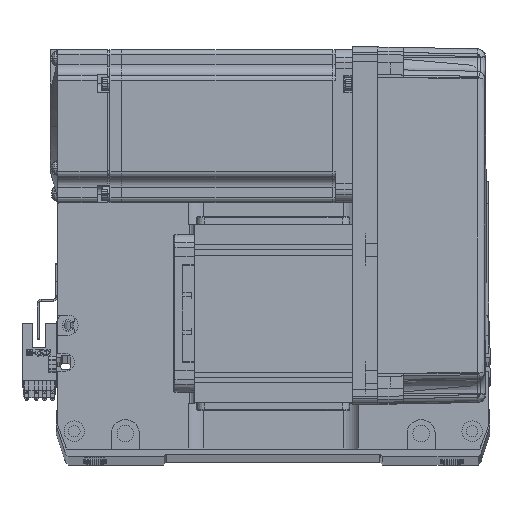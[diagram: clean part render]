
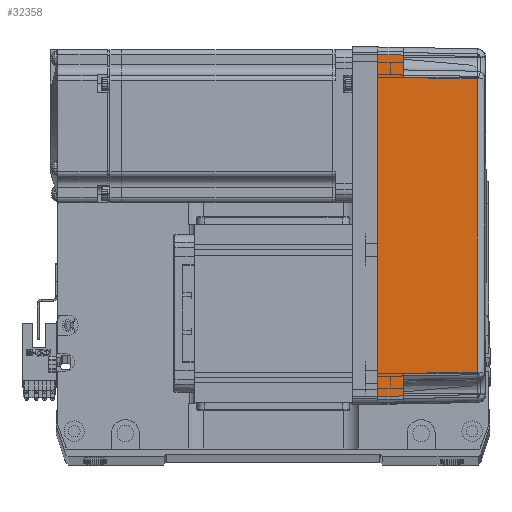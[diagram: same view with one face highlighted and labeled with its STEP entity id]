
A CAD part, top view. The second image highlights one B-rep face of the part: STEP entity #32358.
In plain terms, the highlighted planar face has unit normal (0.018, 0, 1) as drawn and (0, -1, 0.017) by its records, which use the part's own axes.
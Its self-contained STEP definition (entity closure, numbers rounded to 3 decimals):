
#180 = PLANE ( 'NONE',  #46806 ) ;
#409 = B_SPLINE_CURVE_WITH_KNOTS ( 'NONE', 3,
 ( #27133, #22078, #43271, #63791 ),
 .UNSPECIFIED., .F., .F.,
 ( 4, 4 ),
 ( 0., 1. ),
 .UNSPECIFIED. ) ;
#412 = DIRECTION ( 'NONE',  ( 0., -0.017, -1. ) ) ;
#1204 = VECTOR ( 'NONE', #48244, 1000. ) ;
#1708 = ORIENTED_EDGE ( 'NONE', *, *, #25312, .T. ) ;
#2305 = EDGE_CURVE ( 'NONE', #22018, #17889, #9451, .T. ) ;
#4297 = FACE_OUTER_BOUND ( 'NONE', #28061, .T. ) ;
#5438 = ORIENTED_EDGE ( 'NONE', *, *, #62013, .T. ) ;
#5601 = LINE ( 'NONE', #29621, #49599 ) ;
#6818 = CARTESIAN_POINT ( 'NONE',  ( -58., -35.825, 10. ) ) ;
#7530 = VERTEX_POINT ( 'NONE', #30498 ) ;
#9033 = DIRECTION ( 'NONE',  ( -1., 0., 0. ) ) ;
#9451 = LINE ( 'NONE', #63303, #62181 ) ;
#9566 = ORIENTED_EDGE ( 'NONE', *, *, #44814, .T. ) ;
#10897 = DIRECTION ( 'NONE',  ( -1., 0., 0. ) ) ;
#12548 = LINE ( 'NONE', #48901, #1204 ) ;
#14133 = ORIENTED_EDGE ( 'NONE', *, *, #35179, .F. ) ;
#16956 = VERTEX_POINT ( 'NONE', #6818 ) ;
#17551 = DIRECTION ( 'NONE',  ( 0.017, 0.017, 1. ) ) ;
#17889 = VERTEX_POINT ( 'NONE', #25051 ) ;
#19363 = CARTESIAN_POINT ( 'NONE',  ( 70., -35.825, 10. ) ) ;
#20684 = CARTESIAN_POINT ( 'NONE',  ( 66.826, -35.825, 10. ) ) ;
#20983 = CARTESIAN_POINT ( 'NONE',  ( 0., -36., 0. ) ) ;
#21817 = VECTOR ( 'NONE', #9033, 1000. ) ;
#22018 = VERTEX_POINT ( 'NONE', #53664 ) ;
#22078 = CARTESIAN_POINT ( 'NONE',  ( 19.165, -35.316, 39.181 ) ) ;
#23918 = LINE ( 'NONE', #58375, #33546 ) ;
#24680 = DIRECTION ( 'NONE',  ( -0.017, 0.017, 1. ) ) ;
#24970 = CARTESIAN_POINT ( 'NONE',  ( 70., -35.825, 10. ) ) ;
#25051 = CARTESIAN_POINT ( 'NONE',  ( -66.826, -35.825, 10. ) ) ;
#25312 = EDGE_CURVE ( 'NONE', #39190, #16956, #23918, .T. ) ;
#26651 = VECTOR ( 'NONE', #50715, 1000. ) ;
#27133 = CARTESIAN_POINT ( 'NONE',  ( 57.495, -35.32, 38.985 ) ) ;
#27924 = VERTEX_POINT ( 'NONE', #35722 ) ;
#28061 = EDGE_LOOP ( 'NONE', ( #59552, #58270, #5438, #50831, #1708, #9566, #32752, #14133 ) ) ;
#28399 = LINE ( 'NONE', #20983, #65205 ) ;
#29621 = CARTESIAN_POINT ( 'NONE',  ( 58., -35.825, 10. ) ) ;
#30498 = CARTESIAN_POINT ( 'NONE',  ( 57.495, -35.32, 38.985 ) ) ;
#31506 = LINE ( 'NONE', #24970, #26651 ) ;
#32358 = ADVANCED_FACE ( 'NONE', ( #4297 ), #180, .T. ) ;
#32752 = ORIENTED_EDGE ( 'NONE', *, *, #2305, .F. ) ;
#33546 = VECTOR ( 'NONE', #38245, 1000. ) ;
#34441 = EDGE_CURVE ( 'NONE', #36366, #44914, #12548, .T. ) ;
#35179 = EDGE_CURVE ( 'NONE', #36366, #22018, #28399, .T. ) ;
#35722 = CARTESIAN_POINT ( 'NONE',  ( 58., -35.825, 10. ) ) ;
#36333 = EDGE_CURVE ( 'NONE', #7530, #39190, #409, .T. ) ;
#36366 = VERTEX_POINT ( 'NONE', #37875 ) ;
#37875 = CARTESIAN_POINT ( 'NONE',  ( 67., -36., 0. ) ) ;
#38245 = DIRECTION ( 'NONE',  ( -0.017, -0.017, -1. ) ) ;
#39190 = VERTEX_POINT ( 'NONE', #45109 ) ;
#43271 = CARTESIAN_POINT ( 'NONE',  ( -19.165, -35.316, 39.181 ) ) ;
#44814 = EDGE_CURVE ( 'NONE', #16956, #17889, #56996, .T. ) ;
#44914 = VERTEX_POINT ( 'NONE', #20684 ) ;
#45109 = CARTESIAN_POINT ( 'NONE',  ( -57.495, -35.32, 38.985 ) ) ;
#46806 = AXIS2_PLACEMENT_3D ( 'NONE', #50238, #51339, #412 ) ;
#48244 = DIRECTION ( 'NONE',  ( -0.017, 0.017, 1. ) ) ;
#48901 = CARTESIAN_POINT ( 'NONE',  ( 67., -36., 0. ) ) ;
#49599 = VECTOR ( 'NONE', #24680, 1000. ) ;
#50238 = CARTESIAN_POINT ( 'NONE',  ( 70., -36., 0. ) ) ;
#50715 = DIRECTION ( 'NONE',  ( -1., 0., 0. ) ) ;
#50831 = ORIENTED_EDGE ( 'NONE', *, *, #36333, .T. ) ;
#51339 = DIRECTION ( 'NONE',  ( 0., -1., 0.017 ) ) ;
#53664 = CARTESIAN_POINT ( 'NONE',  ( -67., -36., 0. ) ) ;
#56996 = LINE ( 'NONE', #19363, #21817 ) ;
#58270 = ORIENTED_EDGE ( 'NONE', *, *, #60301, .T. ) ;
#58375 = CARTESIAN_POINT ( 'NONE',  ( -57.495, -35.32, 38.985 ) ) ;
#59552 = ORIENTED_EDGE ( 'NONE', *, *, #34441, .T. ) ;
#60301 = EDGE_CURVE ( 'NONE', #44914, #27924, #31506, .T. ) ;
#62013 = EDGE_CURVE ( 'NONE', #27924, #7530, #5601, .T. ) ;
#62181 = VECTOR ( 'NONE', #17551, 1000. ) ;
#63303 = CARTESIAN_POINT ( 'NONE',  ( -66.959, -35.958, 2.39 ) ) ;
#63791 = CARTESIAN_POINT ( 'NONE',  ( -57.495, -35.32, 38.985 ) ) ;
#65205 = VECTOR ( 'NONE', #10897, 1000. ) ;
